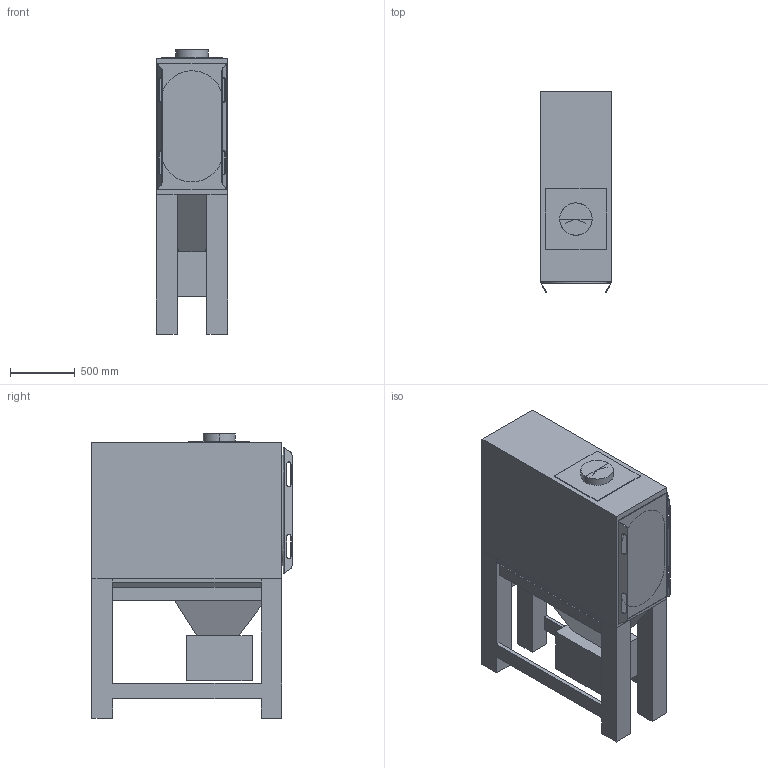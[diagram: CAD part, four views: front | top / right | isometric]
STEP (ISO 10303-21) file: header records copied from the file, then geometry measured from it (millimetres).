
FILE_DESCRIPTION(/* description */ ('Generated from Alias Stage'),/* implementation_level */ '2;1');
FILE_NAME(/* name */ 'CFE2 B',/* time_stamp */ '2016-11-30T13:17:38+01:00',/* author */ (''),/* organization */ ('Autodesk Alias'),/* preprocessor_version */ 'ST-DEVELOPER v11',/* originating_system */ 'Autodesk OpenModel 2016',/* authorisation */ '');
FILE_SCHEMA (('AUTOMOTIVE_DESIGN { 1 2 10303 214 1 1 1 1 }'));
Length unit declared in the file: millimetre
Products named in the file (1): CFE2 B
Bounding box: 550 x 1549.28 x 2200 mm (x, y, z)
Volume: 1137576937.6 mm3; surface area: 12189148.8 mm2
Topology: 1 solids, 1 shells, 129 faces, 360 edges, 232 vertices
Faces by surface type: bspline 129
Entity records: 5130 total; most frequent: CARTESIAN_POINT 3388, ORIENTED_EDGE 712, EDGE_CURVE 356, VERTEX_POINT 232, EDGE_LOOP 144, FACE_OUTER_BOUND 129, ADVANCED_FACE 129, FACE_BOUND 15
